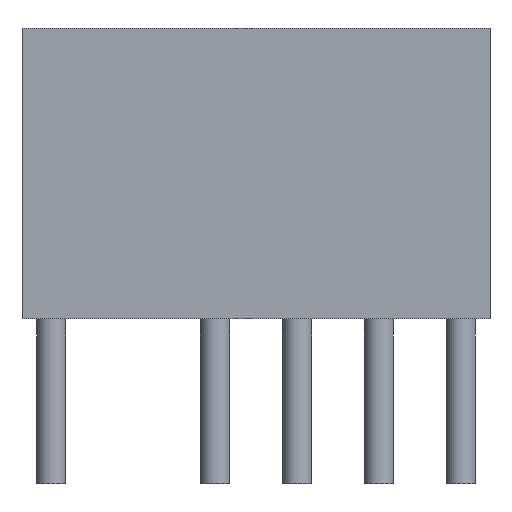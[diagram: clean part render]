
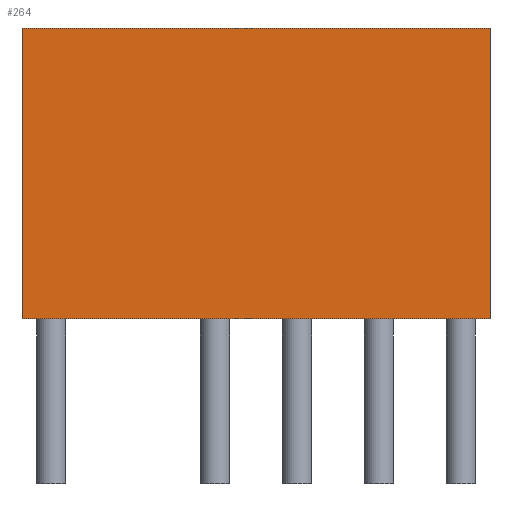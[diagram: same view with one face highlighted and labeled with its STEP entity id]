
A CAD part, front view. The second image highlights one B-rep face of the part: STEP entity #264.
In plain terms, the highlighted planar face has unit normal (0, -1, 0).
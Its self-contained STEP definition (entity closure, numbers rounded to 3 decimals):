
#95 = PLANE('',#96);
#96 = AXIS2_PLACEMENT_3D('',#97,#98,#99);
#97 = CARTESIAN_POINT('',(-7.25,-3.6,0.));
#98 = DIRECTION('',(-1.,0.,0.));
#99 = DIRECTION('',(0.,1.,0.));
#123 = PLANE('',#124);
#124 = AXIS2_PLACEMENT_3D('',#125,#126,#127);
#125 = CARTESIAN_POINT('',(0.,0.,9.));
#126 = DIRECTION('',(-0.,-0.,-1.));
#127 = DIRECTION('',(-1.,0.,0.));
#151 = PLANE('',#152);
#152 = AXIS2_PLACEMENT_3D('',#153,#154,#155);
#153 = CARTESIAN_POINT('',(7.25,3.6,0.));
#154 = DIRECTION('',(1.,0.,-0.));
#155 = DIRECTION('',(0.,-1.,0.));
#177 = PLANE('',#178);
#178 = AXIS2_PLACEMENT_3D('',#179,#180,#181);
#179 = CARTESIAN_POINT('',(0.,0.,0.));
#180 = DIRECTION('',(-0.,-0.,-1.));
#181 = DIRECTION('',(-1.,0.,0.));
#194 = VERTEX_POINT('',#195);
#195 = CARTESIAN_POINT('',(7.25,-3.6,9.));
#216 = EDGE_CURVE('',#217,#194,#219,.T.);
#217 = VERTEX_POINT('',#218);
#218 = CARTESIAN_POINT('',(7.25,-3.6,0.));
#219 = SURFACE_CURVE('',#220,(#224,#231),.PCURVE_S1.);
#220 = LINE('',#221,#222);
#221 = CARTESIAN_POINT('',(7.25,-3.6,0.));
#222 = VECTOR('',#223,1.);
#223 = DIRECTION('',(0.,0.,1.));
#224 = PCURVE('',#151,#225);
#225 = DEFINITIONAL_REPRESENTATION('',(#226),#230);
#226 = LINE('',#227,#228);
#227 = CARTESIAN_POINT('',(7.2,0.));
#228 = VECTOR('',#229,1.);
#229 = DIRECTION('',(0.,-1.));
#230 = ( GEOMETRIC_REPRESENTATION_CONTEXT(2) 
PARAMETRIC_REPRESENTATION_CONTEXT() REPRESENTATION_CONTEXT('2D SPACE',''
  ) );
#231 = PCURVE('',#232,#237);
#232 = PLANE('',#233);
#233 = AXIS2_PLACEMENT_3D('',#234,#235,#236);
#234 = CARTESIAN_POINT('',(7.25,-3.6,0.));
#235 = DIRECTION('',(0.,-1.,0.));
#236 = DIRECTION('',(-1.,0.,0.));
#237 = DEFINITIONAL_REPRESENTATION('',(#238),#242);
#238 = LINE('',#239,#240);
#239 = CARTESIAN_POINT('',(0.,-0.));
#240 = VECTOR('',#241,1.);
#241 = DIRECTION('',(0.,-1.));
#242 = ( GEOMETRIC_REPRESENTATION_CONTEXT(2) 
PARAMETRIC_REPRESENTATION_CONTEXT() REPRESENTATION_CONTEXT('2D SPACE',''
  ) );
#264 = ADVANCED_FACE('',(#265),#232,.T.);
#265 = FACE_BOUND('',#266,.T.);
#266 = EDGE_LOOP('',(#267,#268,#291,#314));
#267 = ORIENTED_EDGE('',*,*,#216,.T.);
#268 = ORIENTED_EDGE('',*,*,#269,.T.);
#269 = EDGE_CURVE('',#194,#270,#272,.T.);
#270 = VERTEX_POINT('',#271);
#271 = CARTESIAN_POINT('',(-7.25,-3.6,9.));
#272 = SURFACE_CURVE('',#273,(#277,#284),.PCURVE_S1.);
#273 = LINE('',#274,#275);
#274 = CARTESIAN_POINT('',(7.25,-3.6,9.));
#275 = VECTOR('',#276,1.);
#276 = DIRECTION('',(-1.,0.,0.));
#277 = PCURVE('',#232,#278);
#278 = DEFINITIONAL_REPRESENTATION('',(#279),#283);
#279 = LINE('',#280,#281);
#280 = CARTESIAN_POINT('',(0.,-9.));
#281 = VECTOR('',#282,1.);
#282 = DIRECTION('',(1.,0.));
#283 = ( GEOMETRIC_REPRESENTATION_CONTEXT(2) 
PARAMETRIC_REPRESENTATION_CONTEXT() REPRESENTATION_CONTEXT('2D SPACE',''
  ) );
#284 = PCURVE('',#123,#285);
#285 = DEFINITIONAL_REPRESENTATION('',(#286),#290);
#286 = LINE('',#287,#288);
#287 = CARTESIAN_POINT('',(-7.25,-3.6));
#288 = VECTOR('',#289,1.);
#289 = DIRECTION('',(1.,0.));
#290 = ( GEOMETRIC_REPRESENTATION_CONTEXT(2) 
PARAMETRIC_REPRESENTATION_CONTEXT() REPRESENTATION_CONTEXT('2D SPACE',''
  ) );
#291 = ORIENTED_EDGE('',*,*,#292,.F.);
#292 = EDGE_CURVE('',#293,#270,#295,.T.);
#293 = VERTEX_POINT('',#294);
#294 = CARTESIAN_POINT('',(-7.25,-3.6,0.));
#295 = SURFACE_CURVE('',#296,(#300,#307),.PCURVE_S1.);
#296 = LINE('',#297,#298);
#297 = CARTESIAN_POINT('',(-7.25,-3.6,0.));
#298 = VECTOR('',#299,1.);
#299 = DIRECTION('',(0.,0.,1.));
#300 = PCURVE('',#232,#301);
#301 = DEFINITIONAL_REPRESENTATION('',(#302),#306);
#302 = LINE('',#303,#304);
#303 = CARTESIAN_POINT('',(14.5,0.));
#304 = VECTOR('',#305,1.);
#305 = DIRECTION('',(0.,-1.));
#306 = ( GEOMETRIC_REPRESENTATION_CONTEXT(2) 
PARAMETRIC_REPRESENTATION_CONTEXT() REPRESENTATION_CONTEXT('2D SPACE',''
  ) );
#307 = PCURVE('',#95,#308);
#308 = DEFINITIONAL_REPRESENTATION('',(#309),#313);
#309 = LINE('',#310,#311);
#310 = CARTESIAN_POINT('',(0.,0.));
#311 = VECTOR('',#312,1.);
#312 = DIRECTION('',(0.,-1.));
#313 = ( GEOMETRIC_REPRESENTATION_CONTEXT(2) 
PARAMETRIC_REPRESENTATION_CONTEXT() REPRESENTATION_CONTEXT('2D SPACE',''
  ) );
#314 = ORIENTED_EDGE('',*,*,#315,.F.);
#315 = EDGE_CURVE('',#217,#293,#316,.T.);
#316 = SURFACE_CURVE('',#317,(#321,#328),.PCURVE_S1.);
#317 = LINE('',#318,#319);
#318 = CARTESIAN_POINT('',(7.25,-3.6,0.));
#319 = VECTOR('',#320,1.);
#320 = DIRECTION('',(-1.,0.,0.));
#321 = PCURVE('',#232,#322);
#322 = DEFINITIONAL_REPRESENTATION('',(#323),#327);
#323 = LINE('',#324,#325);
#324 = CARTESIAN_POINT('',(0.,-0.));
#325 = VECTOR('',#326,1.);
#326 = DIRECTION('',(1.,0.));
#327 = ( GEOMETRIC_REPRESENTATION_CONTEXT(2) 
PARAMETRIC_REPRESENTATION_CONTEXT() REPRESENTATION_CONTEXT('2D SPACE',''
  ) );
#328 = PCURVE('',#177,#329);
#329 = DEFINITIONAL_REPRESENTATION('',(#330),#334);
#330 = LINE('',#331,#332);
#331 = CARTESIAN_POINT('',(-7.25,-3.6));
#332 = VECTOR('',#333,1.);
#333 = DIRECTION('',(1.,0.));
#334 = ( GEOMETRIC_REPRESENTATION_CONTEXT(2) 
PARAMETRIC_REPRESENTATION_CONTEXT() REPRESENTATION_CONTEXT('2D SPACE',''
  ) );
